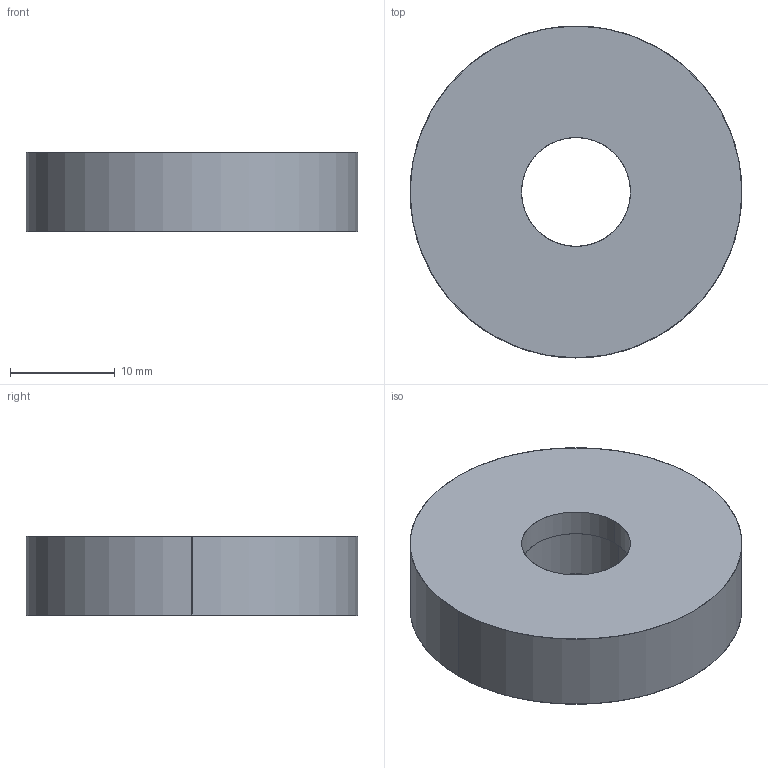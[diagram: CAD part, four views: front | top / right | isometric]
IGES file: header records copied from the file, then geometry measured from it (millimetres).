
Start section: SolidWorks IGES file using analytic representation for surfaces
Global section: file name: C:\Users\Shane\Desktop\End Cap.IGS; native system: SolidWorks 2011; preprocessor: SolidWorks 2011; author: Shane; date: 120428.103805; units: inch
Bounding box: 31.75 x 31.75 x 7.62 mm (x, y, z)
Surface area: 2747.9 mm2 (no closed solid volume)
Topology: 0 solids, 0 shells, 12 faces, 384 edges, 384 vertices
Faces by surface type: revolution 6, bspline 6
